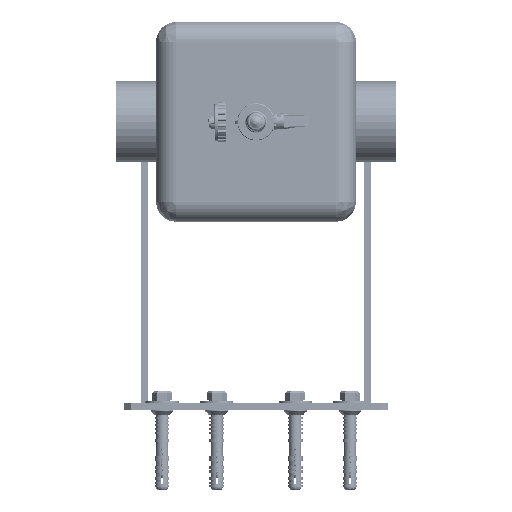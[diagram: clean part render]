
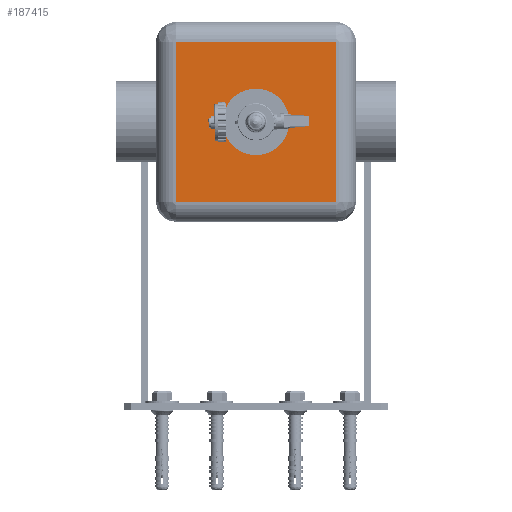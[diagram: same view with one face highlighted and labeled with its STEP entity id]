
A CAD part, left-side view. The second image highlights one B-rep face of the part: STEP entity #187415.
In plain terms, the highlighted planar face has unit normal (-1, 0, 0).
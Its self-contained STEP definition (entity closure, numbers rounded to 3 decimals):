
#8030 = VECTOR ( 'NONE', #95621, 1000. ) ;
#10798 = CARTESIAN_POINT ( 'NONE',  ( -70., 0., 0. ) ) ;
#18343 = CARTESIAN_POINT ( 'NONE',  ( -70., -60., -60. ) ) ;
#22563 = LINE ( 'NONE', #191850, #160936 ) ;
#27515 = DIRECTION ( 'NONE',  ( -1., 0., 0. ) ) ;
#36339 = ORIENTED_EDGE ( 'NONE', *, *, #212639, .F. ) ;
#38378 = VERTEX_POINT ( 'NONE', #18343 ) ;
#42957 = FACE_OUTER_BOUND ( 'NONE', #95069, .T. ) ;
#45254 = CARTESIAN_POINT ( 'NONE',  ( -70., 0., 0. ) ) ;
#48487 = EDGE_CURVE ( 'NONE', #181577, #86791, #157741, .T. ) ;
#50600 = DIRECTION ( 'NONE',  ( -1., 0., 0. ) ) ;
#56241 = ORIENTED_EDGE ( 'NONE', *, *, #77027, .F. ) ;
#61703 = VECTOR ( 'NONE', #212664, 1000. ) ;
#62326 = CARTESIAN_POINT ( 'NONE',  ( -70., 60., 0. ) ) ;
#67542 = EDGE_CURVE ( 'NONE', #169918, #196074, #108934, .T. ) ;
#72951 = CARTESIAN_POINT ( 'NONE',  ( -70., 0., -25. ) ) ;
#77027 = EDGE_CURVE ( 'NONE', #38378, #96754, #22563, .T. ) ;
#77576 = AXIS2_PLACEMENT_3D ( 'NONE', #217523, #50600, #116937 ) ;
#78298 = DIRECTION ( 'NONE',  ( 1., 0., 0. ) ) ;
#86791 = VERTEX_POINT ( 'NONE', #72951 ) ;
#86850 = DIRECTION ( 'NONE',  ( 0., 1., 0. ) ) ;
#95069 = EDGE_LOOP ( 'NONE', ( #147829, #36339, #56241, #202784 ) ) ;
#95621 = DIRECTION ( 'NONE',  ( 0., -1., 0. ) ) ;
#96754 = VERTEX_POINT ( 'NONE', #180375 ) ;
#105138 = CARTESIAN_POINT ( 'NONE',  ( -70., -60., 60. ) ) ;
#106985 = VECTOR ( 'NONE', #204695, 1000. ) ;
#108934 = LINE ( 'NONE', #127692, #8030 ) ;
#116937 = DIRECTION ( 'NONE',  ( 0., 0., 1. ) ) ;
#126830 = CARTESIAN_POINT ( 'NONE',  ( -70., 0., 25. ) ) ;
#127692 = CARTESIAN_POINT ( 'NONE',  ( -70., 0., 60. ) ) ;
#128060 = PLANE ( 'NONE',  #175321 ) ;
#132965 = AXIS2_PLACEMENT_3D ( 'NONE', #45254, #27515, #143608 ) ;
#134085 = EDGE_CURVE ( 'NONE', #86791, #181577, #134095, .T. ) ;
#134095 = CIRCLE ( 'NONE', #77576, 25. ) ;
#143608 = DIRECTION ( 'NONE',  ( 0., 0., 1. ) ) ;
#144897 = EDGE_LOOP ( 'NONE', ( #157412, #198298 ) ) ;
#145206 = LINE ( 'NONE', #62326, #61703 ) ;
#145692 = DIRECTION ( 'NONE',  ( 0., 0., -1. ) ) ;
#147829 = ORIENTED_EDGE ( 'NONE', *, *, #67542, .F. ) ;
#149443 = CARTESIAN_POINT ( 'NONE',  ( -70., -60., 0. ) ) ;
#157412 = ORIENTED_EDGE ( 'NONE', *, *, #48487, .F. ) ;
#157741 = CIRCLE ( 'NONE', #132965, 25. ) ;
#160936 = VECTOR ( 'NONE', #86850, 1000. ) ;
#169918 = VERTEX_POINT ( 'NONE', #192006 ) ;
#171498 = LINE ( 'NONE', #149443, #106985 ) ;
#175321 = AXIS2_PLACEMENT_3D ( 'NONE', #10798, #78298, #145692 ) ;
#180375 = CARTESIAN_POINT ( 'NONE',  ( -70., 60., -60. ) ) ;
#181577 = VERTEX_POINT ( 'NONE', #126830 ) ;
#185433 = EDGE_CURVE ( 'NONE', #196074, #38378, #171498, .T. ) ;
#187415 = ADVANCED_FACE ( 'NONE', ( #216456, #42957 ), #128060, .F. ) ;
#191850 = CARTESIAN_POINT ( 'NONE',  ( -70., 0., -60. ) ) ;
#192006 = CARTESIAN_POINT ( 'NONE',  ( -70., 60., 60. ) ) ;
#196074 = VERTEX_POINT ( 'NONE', #105138 ) ;
#198298 = ORIENTED_EDGE ( 'NONE', *, *, #134085, .F. ) ;
#202784 = ORIENTED_EDGE ( 'NONE', *, *, #185433, .F. ) ;
#204695 = DIRECTION ( 'NONE',  ( 0., 0., -1. ) ) ;
#212639 = EDGE_CURVE ( 'NONE', #96754, #169918, #145206, .T. ) ;
#212664 = DIRECTION ( 'NONE',  ( 0., 0., 1. ) ) ;
#216456 = FACE_BOUND ( 'NONE', #144897, .T. ) ;
#217523 = CARTESIAN_POINT ( 'NONE',  ( -70., 0., 0. ) ) ;
